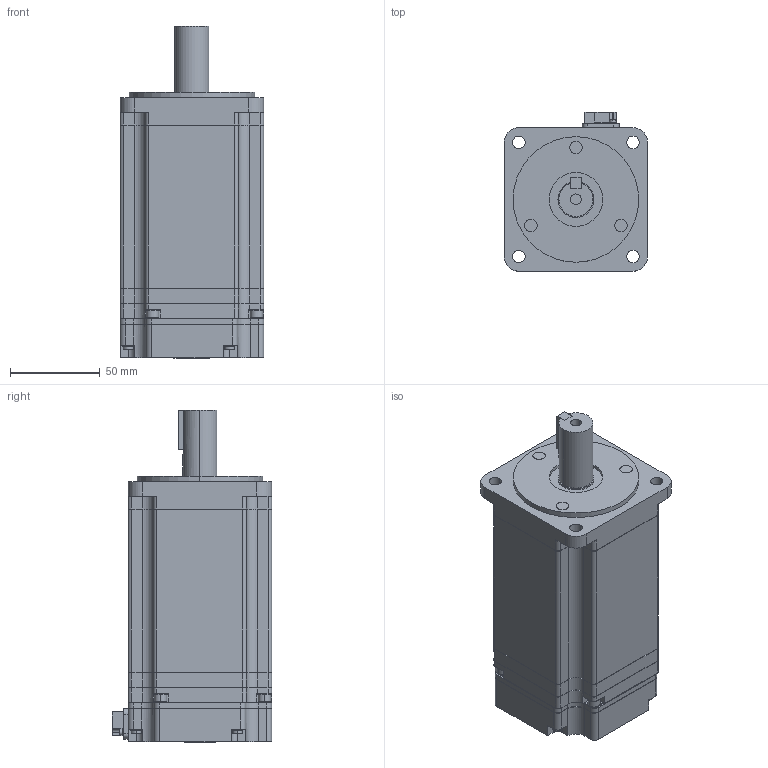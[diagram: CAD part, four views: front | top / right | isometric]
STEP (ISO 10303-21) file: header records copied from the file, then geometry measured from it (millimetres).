
FILE_DESCRIPTION (( 'STEP AP203' ), '1' );
FILE_NAME ('sgmav_10a_a61.STEP', '2009-03-27T06:23:05', ( 'T' ), ( 'T' ), 'SwSTEP 2.0', 'SolidWorks 2006052', '' );
FILE_SCHEMA (( 'CONFIG_CONTROL_DESIGN' ));
Length unit declared in the file: millimetre
Products named in the file (3): sgmav_10a_a61; sgmav_10a_a61_base; sgmav_10a_a61_key
Assembly tree (2 placements, depth 2):
  sgmav_10a_a61
    sgmav_10a_a61_base
    sgmav_10a_a61_key
Bounding box: 80.1 x 88.8 x 185.1 mm (x, y, z)
Volume: 840530.5 mm3; surface area: 66266.9 mm2
Topology: 2 solids, 2 shells, 494 faces, 1318 edges, 872 vertices
Faces by surface type: plane 274, cylinder 220
Entity records: 15847 total; most frequent: DIRECTION 2766, CARTESIAN_POINT 2747, ORIENTED_EDGE 2636, EDGE_CURVE 1318, AXIS2_PLACEMENT_3D 953, VERTEX_POINT 872, VECTOR 860, LINE 860
